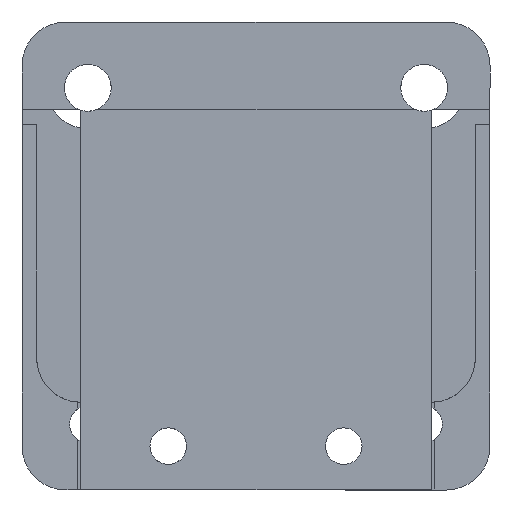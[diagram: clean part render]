
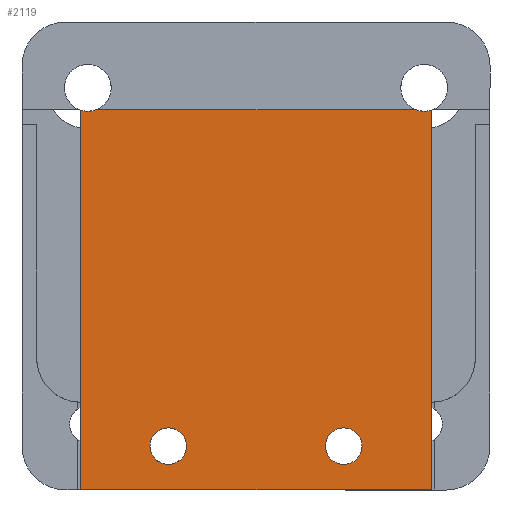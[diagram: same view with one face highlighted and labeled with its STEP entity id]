
A CAD part, front view. The second image highlights one B-rep face of the part: STEP entity #2119.
In plain terms, the highlighted planar face has unit normal (0, -1, 0).
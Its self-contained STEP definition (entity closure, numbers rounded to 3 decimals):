
#38 = CARTESIAN_POINT ( 'NONE',  ( 3., 0.5, -6.5 ) ) ;
#53 = EDGE_CURVE ( 'NONE', #2100, #1928, #894, .T. ) ;
#95 = AXIS2_PLACEMENT_3D ( 'NONE', #1302, #1537, #2400 ) ;
#159 = ORIENTED_EDGE ( 'NONE', *, *, #531, .T. ) ;
#184 = AXIS2_PLACEMENT_3D ( 'NONE', #694, #933, #2248 ) ;
#220 = VECTOR ( 'NONE', #561, 1000. ) ;
#245 = CARTESIAN_POINT ( 'NONE',  ( 6., 0.5, 4.99 ) ) ;
#282 = AXIS2_PLACEMENT_3D ( 'NONE', #485, #1395, #1635 ) ;
#306 = CARTESIAN_POINT ( 'NONE',  ( 5.75, 0.5, 4.95 ) ) ;
#329 = CARTESIAN_POINT ( 'NONE',  ( -3., 0.5, -7.125 ) ) ;
#347 = EDGE_CURVE ( 'NONE', #1928, #2100, #2760, .T. ) ;
#395 = CARTESIAN_POINT ( 'NONE',  ( -5.472, 0.5, 5. ) ) ;
#447 = FACE_OUTER_BOUND ( 'NONE', #649, .T. ) ;
#485 = CARTESIAN_POINT ( 'NONE',  ( 5.75, 0.5, 5.75 ) ) ;
#529 = DIRECTION ( 'NONE',  ( 0., 0., -1. ) ) ;
#531 = EDGE_CURVE ( 'NONE', #1078, #2414, #2420, .T. ) ;
#535 = DIRECTION ( 'NONE',  ( 0., 0., 1. ) ) ;
#554 = VECTOR ( 'NONE', #529, 1000. ) ;
#561 = DIRECTION ( 'NONE',  ( -1., 0., 0. ) ) ;
#600 = ORIENTED_EDGE ( 'NONE', *, *, #53, .F. ) ;
#611 = CIRCLE ( 'NONE', #184, 0.8 ) ;
#617 = AXIS2_PLACEMENT_3D ( 'NONE', #2029, #1814, #2732 ) ;
#649 = EDGE_LOOP ( 'NONE', ( #1292, #1754, #954, #1803, #828, #159, #2204, #1775 ) ) ;
#685 = DIRECTION ( 'NONE',  ( 0., 0., 1. ) ) ;
#694 = CARTESIAN_POINT ( 'NONE',  ( -5.75, 0.5, 5.75 ) ) ;
#700 = LINE ( 'NONE', #2027, #2424 ) ;
#762 = DIRECTION ( 'NONE',  ( 0., -1., 0. ) ) ;
#763 = LINE ( 'NONE', #2582, #554 ) ;
#800 = DIRECTION ( 'NONE',  ( 0., 0., 1. ) ) ;
#828 = ORIENTED_EDGE ( 'NONE', *, *, #1630, .F. ) ;
#894 = CIRCLE ( 'NONE', #2801, 0.625 ) ;
#933 = DIRECTION ( 'NONE',  ( 0., -1., 0. ) ) ;
#949 = VECTOR ( 'NONE', #800, 1000. ) ;
#954 = ORIENTED_EDGE ( 'NONE', *, *, #1225, .F. ) ;
#959 = DIRECTION ( 'NONE',  ( 0., -1., 0. ) ) ;
#960 = DIRECTION ( 'NONE',  ( 0., -1., 0. ) ) ;
#961 = EDGE_CURVE ( 'NONE', #2548, #1680, #1366, .T. ) ;
#970 = DIRECTION ( 'NONE',  ( 0., 0., 1. ) ) ;
#987 = CIRCLE ( 'NONE', #95, 0.625 ) ;
#995 = CIRCLE ( 'NONE', #2095, 0.8 ) ;
#1024 = EDGE_CURVE ( 'NONE', #1066, #2465, #700, .T. ) ;
#1066 = VERTEX_POINT ( 'NONE', #2241 ) ;
#1078 = VERTEX_POINT ( 'NONE', #2755 ) ;
#1124 = PLANE ( 'NONE',  #617 ) ;
#1127 = EDGE_LOOP ( 'NONE', ( #2340, #2462 ) ) ;
#1225 = EDGE_CURVE ( 'NONE', #1680, #1066, #763, .T. ) ;
#1267 = AXIS2_PLACEMENT_3D ( 'NONE', #2788, #959, #2074 ) ;
#1292 = ORIENTED_EDGE ( 'NONE', *, *, #2637, .F. ) ;
#1302 = CARTESIAN_POINT ( 'NONE',  ( -3., 0.5, -6.5 ) ) ;
#1366 = CIRCLE ( 'NONE', #1750, 0.8 ) ;
#1395 = DIRECTION ( 'NONE',  ( 0., -1., 0. ) ) ;
#1402 = FACE_BOUND ( 'NONE', #2636, .T. ) ;
#1477 = CARTESIAN_POINT ( 'NONE',  ( -6., 0.5, 4.99 ) ) ;
#1494 = CARTESIAN_POINT ( 'NONE',  ( 5.75, 0.5, 5.75 ) ) ;
#1537 = DIRECTION ( 'NONE',  ( 0., -1., 0. ) ) ;
#1548 = CARTESIAN_POINT ( 'NONE',  ( 3., 0.5, -5.875 ) ) ;
#1584 = VERTEX_POINT ( 'NONE', #329 ) ;
#1630 = EDGE_CURVE ( 'NONE', #1078, #2548, #2915, .T. ) ;
#1635 = DIRECTION ( 'NONE',  ( 0., 0., 1. ) ) ;
#1661 = DIRECTION ( 'NONE',  ( 0., -1., 0. ) ) ;
#1670 = DIRECTION ( 'NONE',  ( 0., 0., 1. ) ) ;
#1680 = VERTEX_POINT ( 'NONE', #245 ) ;
#1708 = LINE ( 'NONE', #2649, #949 ) ;
#1750 = AXIS2_PLACEMENT_3D ( 'NONE', #1494, #762, #1670 ) ;
#1753 = VERTEX_POINT ( 'NONE', #2560 ) ;
#1754 = ORIENTED_EDGE ( 'NONE', *, *, #1024, .F. ) ;
#1775 = ORIENTED_EDGE ( 'NONE', *, *, #2925, .F. ) ;
#1803 = ORIENTED_EDGE ( 'NONE', *, *, #961, .F. ) ;
#1814 = DIRECTION ( 'NONE',  ( 0., 1., 0. ) ) ;
#1891 = VERTEX_POINT ( 'NONE', #1477 ) ;
#1928 = VERTEX_POINT ( 'NONE', #1548 ) ;
#1936 = CARTESIAN_POINT ( 'NONE',  ( 8.531, 0.5, 5. ) ) ;
#2027 = CARTESIAN_POINT ( 'NONE',  ( -8., 0.5, -8. ) ) ;
#2029 = CARTESIAN_POINT ( 'NONE',  ( 0., 0.5, 0. ) ) ;
#2055 = CARTESIAN_POINT ( 'NONE',  ( -6., 0.5, -8. ) ) ;
#2074 = DIRECTION ( 'NONE',  ( 0., 0., 1. ) ) ;
#2095 = AXIS2_PLACEMENT_3D ( 'NONE', #2143, #960, #970 ) ;
#2100 = VERTEX_POINT ( 'NONE', #2545 ) ;
#2119 = ADVANCED_FACE ( 'NONE', ( #1402, #2258, #447 ), #1124, .F. ) ;
#2143 = CARTESIAN_POINT ( 'NONE',  ( -5.75, 0.5, 5.75 ) ) ;
#2202 = EDGE_CURVE ( 'NONE', #1753, #2414, #995, .T. ) ;
#2204 = ORIENTED_EDGE ( 'NONE', *, *, #2202, .F. ) ;
#2241 = CARTESIAN_POINT ( 'NONE',  ( 6., 0.5, -8. ) ) ;
#2248 = DIRECTION ( 'NONE',  ( 0., 0., 1. ) ) ;
#2258 = FACE_BOUND ( 'NONE', #1127, .T. ) ;
#2330 = CIRCLE ( 'NONE', #2615, 0.625 ) ;
#2340 = ORIENTED_EDGE ( 'NONE', *, *, #2496, .F. ) ;
#2400 = DIRECTION ( 'NONE',  ( 0., 0., 1. ) ) ;
#2414 = VERTEX_POINT ( 'NONE', #395 ) ;
#2420 = LINE ( 'NONE', #1936, #220 ) ;
#2424 = VECTOR ( 'NONE', #2728, 1000. ) ;
#2462 = ORIENTED_EDGE ( 'NONE', *, *, #2697, .F. ) ;
#2465 = VERTEX_POINT ( 'NONE', #2055 ) ;
#2493 = ORIENTED_EDGE ( 'NONE', *, *, #347, .F. ) ;
#2496 = EDGE_CURVE ( 'NONE', #2590, #1584, #2330, .T. ) ;
#2545 = CARTESIAN_POINT ( 'NONE',  ( 3., 0.5, -7.125 ) ) ;
#2548 = VERTEX_POINT ( 'NONE', #306 ) ;
#2560 = CARTESIAN_POINT ( 'NONE',  ( -5.75, 0.5, 4.95 ) ) ;
#2582 = CARTESIAN_POINT ( 'NONE',  ( 6., 0.5, -8. ) ) ;
#2589 = CARTESIAN_POINT ( 'NONE',  ( -3., 0.5, -5.875 ) ) ;
#2590 = VERTEX_POINT ( 'NONE', #2589 ) ;
#2615 = AXIS2_PLACEMENT_3D ( 'NONE', #2724, #2951, #685 ) ;
#2636 = EDGE_LOOP ( 'NONE', ( #2493, #600 ) ) ;
#2637 = EDGE_CURVE ( 'NONE', #2465, #1891, #1708, .T. ) ;
#2649 = CARTESIAN_POINT ( 'NONE',  ( -6., 0.5, -8. ) ) ;
#2697 = EDGE_CURVE ( 'NONE', #1584, #2590, #987, .T. ) ;
#2724 = CARTESIAN_POINT ( 'NONE',  ( -3., 0.5, -6.5 ) ) ;
#2728 = DIRECTION ( 'NONE',  ( -1., 0., 0. ) ) ;
#2732 = DIRECTION ( 'NONE',  ( 0., 0., 1. ) ) ;
#2755 = CARTESIAN_POINT ( 'NONE',  ( 5.472, 0.5, 5. ) ) ;
#2760 = CIRCLE ( 'NONE', #1267, 0.625 ) ;
#2788 = CARTESIAN_POINT ( 'NONE',  ( 3., 0.5, -6.5 ) ) ;
#2801 = AXIS2_PLACEMENT_3D ( 'NONE', #38, #1661, #535 ) ;
#2915 = CIRCLE ( 'NONE', #282, 0.8 ) ;
#2925 = EDGE_CURVE ( 'NONE', #1891, #1753, #611, .T. ) ;
#2951 = DIRECTION ( 'NONE',  ( 0., -1., 0. ) ) ;
